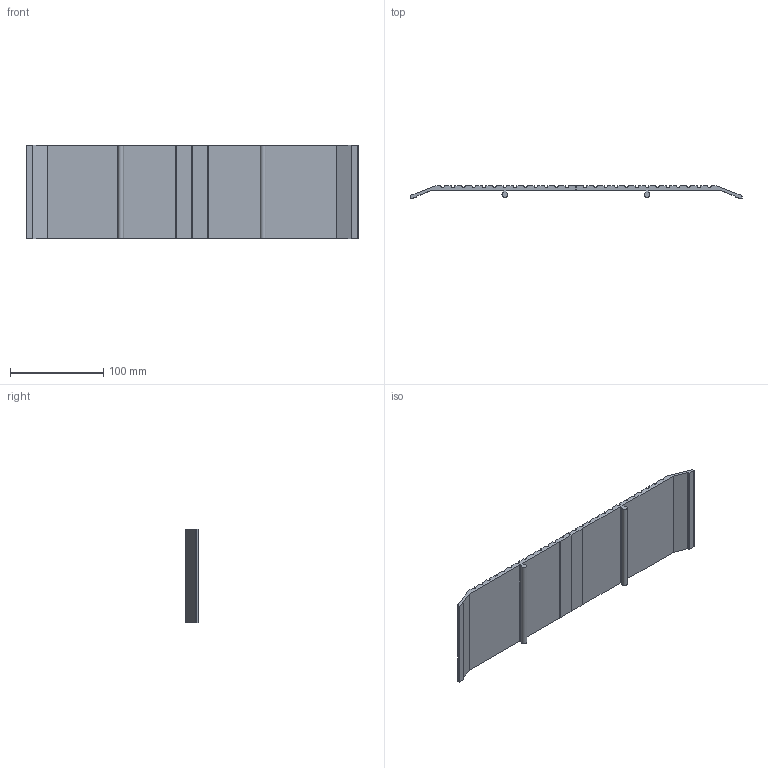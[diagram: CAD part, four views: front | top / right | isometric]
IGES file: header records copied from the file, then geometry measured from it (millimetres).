
Global section: file name: No Iges File Name specified; native system: Autodesk Inventor 2012; preprocessor: AutoDesk Inventor Iges Exporter R2012; author: anna.b; date: 20130731.091433; units: millimetre
Bounding box: 355.89 x 13.47 x 100 mm (x, y, z)
Volume: 161752.1 mm3; surface area: 85735.6 mm2
Topology: 2 solids, 2 shells, 102 faces, 294 edges, 196 vertices
Faces by surface type: plane 56, revolution 32, cylinder 14
